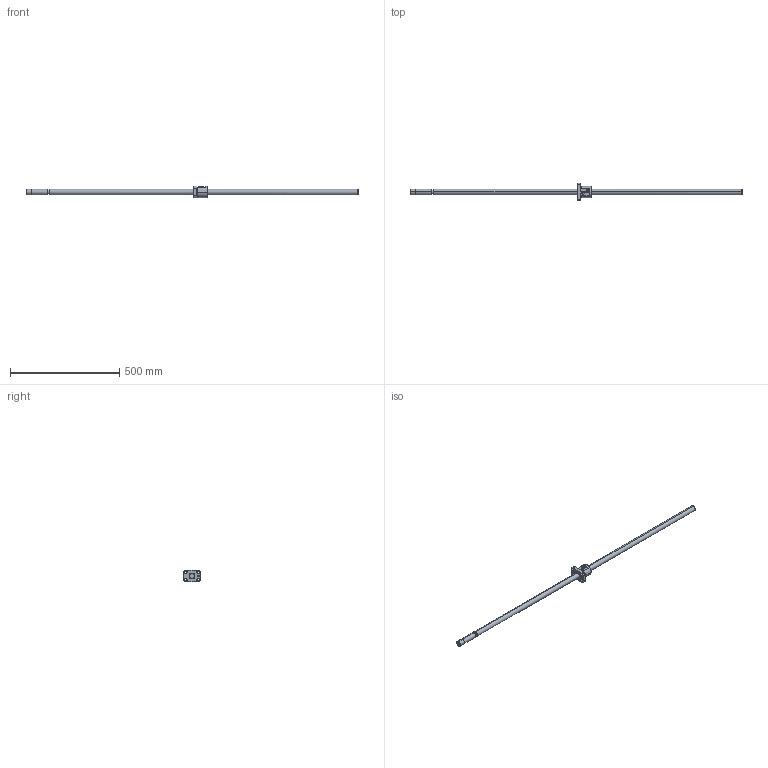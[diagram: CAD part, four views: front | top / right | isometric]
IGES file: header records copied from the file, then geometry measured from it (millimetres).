
Global section: file name: No Iges File Name specified; native system: AutoDesk Inventor R10; preprocessor: AutoDesk Inventor Iges Exporter R10; author: No Author specified; organization: No Organization specified; date: 20101224.141850; units: millimetre
Bounding box: 1520 x 78 x 52 mm (x, y, z)
Surface area: 147387.1 mm2 (no closed solid volume)
Topology: 0 solids, 0 shells, 139 faces, 1006 edges, 1004 vertices
Faces by surface type: bspline 139
